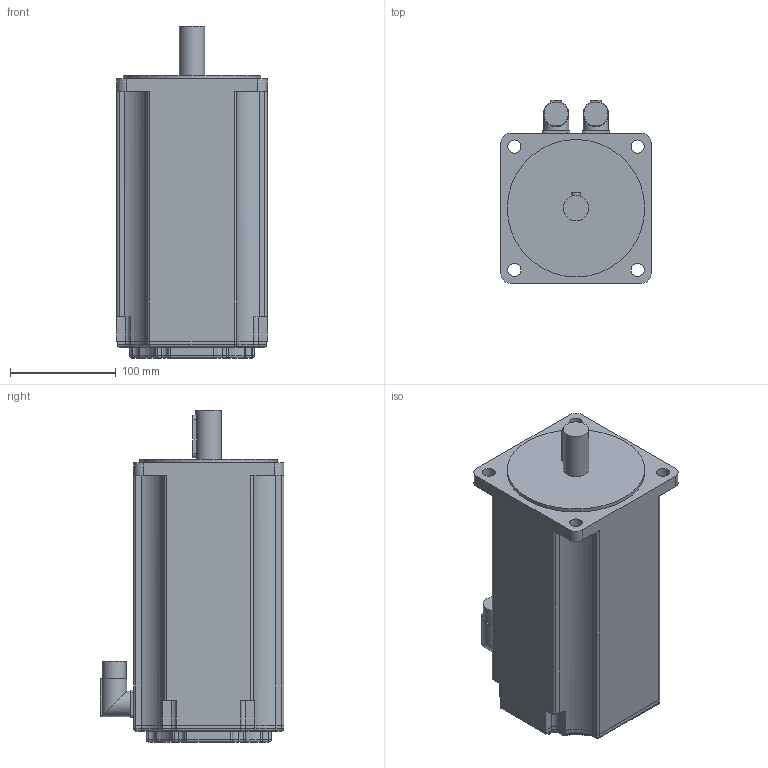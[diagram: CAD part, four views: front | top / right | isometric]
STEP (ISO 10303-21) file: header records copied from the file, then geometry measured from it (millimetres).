
FILE_DESCRIPTION(/* description */ (''),/* implementation_level */ '2;1');
FILE_NAME(/* name */ '\\Lafnas01\disegni\Archivi Lafert\3D\CAD 3D\MODELLI\Assiemi clienti\Serad\Modelli 3D Serad\B71Q\Encoder\Enc With Brake\B7116Qxx6BRx2033.ipt.stp',/* time_stamp */ '2015-09-07T10:52:17+02:00',/* author */ ('Pastrello Ylenia'),/* organization */ (''),/* preprocessor_version */ 'ST-DEVELOPER v15.6',/* originating_system */ 'Autodesk Inventor 2015',/* authorisation */ '');
FILE_SCHEMA (('AUTOMOTIVE_DESIGN { 1 0 10303 214 3 1 1 }'));
Length unit declared in the file: millimetre
Products named in the file (1): B7116Qxx6BRx2033
Bounding box: 142 x 173.5 x 314 mm (x, y, z)
Volume: 4655320.6 mm3; surface area: 190428.7 mm2
Topology: 1 solids, 1 shells, 251 faces, 624 edges, 386 vertices
Faces by surface type: cylinder 118, plane 93, torus 20, sphere 20
Full cylindrical faces by diameter (mm): 12.5 x4, 22.7 x2, 24 x3, 130 x1
Entity records: 7508 total; most frequent: CARTESIAN_POINT 1382, DIRECTION 1362, ORIENTED_EDGE 1220, EDGE_CURVE 610, AXIS2_PLACEMENT_3D 510, VERTEX_POINT 382, LINE 342, VECTOR 342
